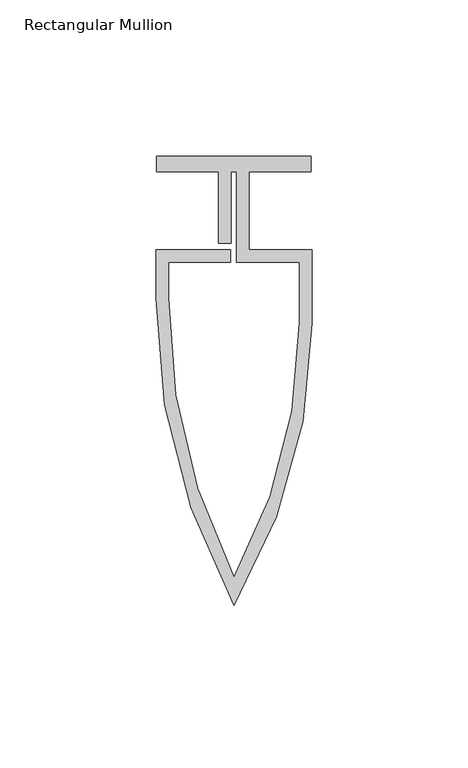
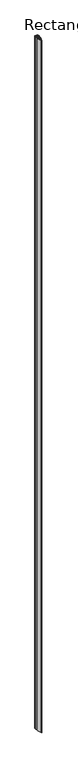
"""IFC4 building model written with IfcOpenShell, lengths in millimetres: member geometry, Rectangular Mullion : Reynaers_CW-50_Mullion-Transom_Horizontal_5mm_Facecap-05."""

from ifc_helpers import new_model, si_unit, point, frame, frame_2d, origin, place, context, project, spatial, polyline, circle_curve, trimmed, segment, composite_curve, outline, extrude, source, transform, mapped, element, save


def rectangular_mullion_7b030d2f(model_context):
    return source(origin(), model_context, "Body", "SweptSolid", [
        extrude(outline(composite_curve([segment(polyline([(-24.8004059, 17.5), (24.8004059, 17.5), (24.8004059, 12.5), (4.9004059, 12.5), (4.9004059, -12.5), (24.994845, -12.5), (24.994845, -36.0195976)]), True, "CONTINUOUS"), segment(trimmed(circle_curve(frame_2d((-151.2704106, -36.0195976)), 176.2652556), [point((24.994845, -36.0195976))], [point((0.0, -126.5))], False, "CARTESIAN"), True, "CONTINUOUS"), segment(trimmed(circle_curve(frame_2d((181.1469577, -28.111878)), 206.1418028), [point((0.0, -126.5))], [point((-24.994845, -28.111878))], False, "CARTESIAN"), True, "CONTINUOUS"), segment(polyline([(-24.994845, -28.111878), (-24.994845, -12.5), (-1.0995941, -12.5), (-1.0995941, -16.5), (-20.994845, -16.5), (-20.994845, -28.2355063)]), True, "CONTINUOUS"), segment(trimmed(circle_curve(frame_2d((179.2670132, -28.2355063)), 200.2618582), [point((-20.994845, -28.2355063))], [point((0.0, -117.5))], True, "CARTESIAN"), True, "CONTINUOUS"), segment(trimmed(circle_curve(frame_2d((-147.4777527, -36.0547506)), 168.4725977), [point((0.0, -117.5))], [point((20.994845, -36.0547506))], True, "CARTESIAN"), True, "CONTINUOUS"), segment(polyline([(20.994845, -36.0547506), (20.994845, -16.5), (0.9004059, -16.5), (0.9004059, 12.5), (-0.9004059, 12.5), (-0.9004059, -10.5), (-4.9004059, -10.5), (-4.9004059, 12.5), (-24.8004059, 12.5), (-24.8004059, 17.5)]), True, "CONTINUOUS")], self_intersect=False)), frame((0.0, 0.0, -12000.0), z_axis=(0.0, 0.0, 1.0), x_axis=(1.0, 0.0, 0.0)), (0.0, 0.0, 1.0), 12000.0),
    ])


if __name__ == "__main__":
    model = new_model("IFC4")
    model_context = context("Model", 3, world=origin())
    ifc_project = project(units=[si_unit("LENGTHUNIT", "METRE", prefix="MILLI")], contexts=[model_context])
    site = spatial("IfcSite", under=ifc_project)
    building = spatial("IfcBuilding", under=site)
    placement = place(None, origin())
    rectangular_mullion_shape = rectangular_mullion_7b030d2f(model_context)
    element("IfcMember", 1, ObjectType="Rectangular Mullion : Reynaers_CW-50_Mullion-Transom_Horizontal_5mm_Facecap-05", at=placement, inside=building, context=model_context, shape_type="MappedRepresentation", body=[
        mapped(rectangular_mullion_shape, transform((0.0, 0.0, 0.0), x_axis=(1.0, 0.0, 0.0), y_axis=(0.0, 1.0, 0.0), z_axis=(0.0, 0.0, 1.0))),
    ])
    save(model, "model.ifc")
